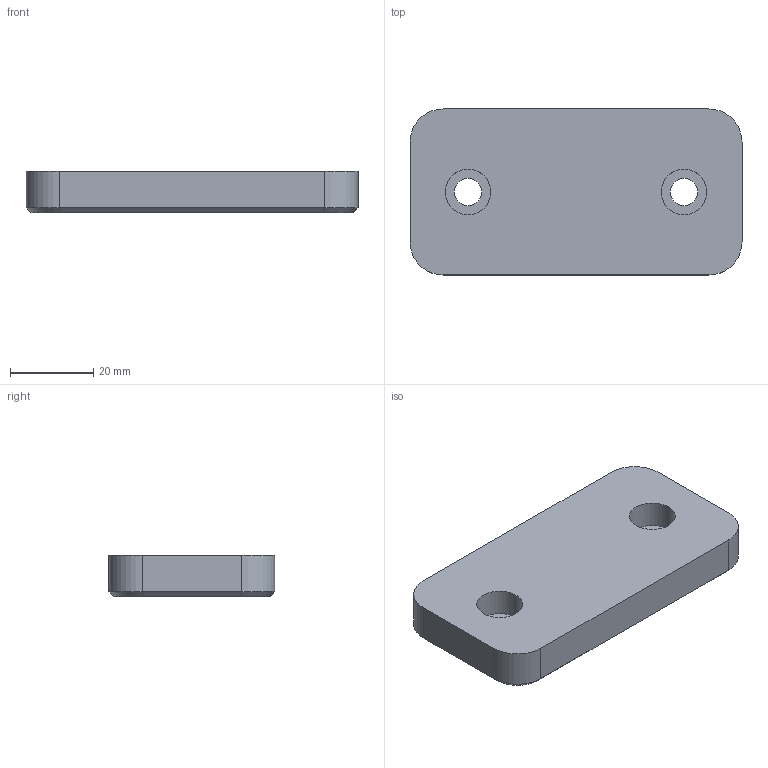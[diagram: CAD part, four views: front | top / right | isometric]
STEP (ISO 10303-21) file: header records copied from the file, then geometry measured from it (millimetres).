
FILE_DESCRIPTION (( 'STEP AP214' ), '1' );
FILE_NAME ('F2680_04008010.STEP', '2024-09-10T07:33:22', ( '' ), ( '' ), 'SwSTEP 2.0', 'SolidWorks 2014', '' );
FILE_SCHEMA (( 'AUTOMOTIVE_DESIGN' ));
Length unit declared in the file: millimetre
Products named in the file (1): F2680_04008010
Bounding box: 80 x 40 x 10.1 mm (x, y, z)
Volume: 30110.1 mm3; surface area: 8878.9 mm2
Topology: 1 solids, 1 shells, 28 faces, 64 edges, 40 vertices
Faces by surface type: cylinder 12, plane 12, cone 4
Entity records: 834 total; most frequent: DIRECTION 150, CARTESIAN_POINT 133, ORIENTED_EDGE 128, EDGE_CURVE 64, AXIS2_PLACEMENT_3D 57, VERTEX_POINT 40, LINE 36, VECTOR 36
